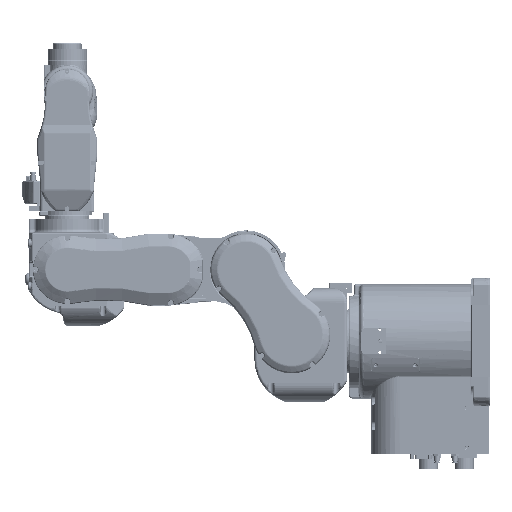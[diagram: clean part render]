
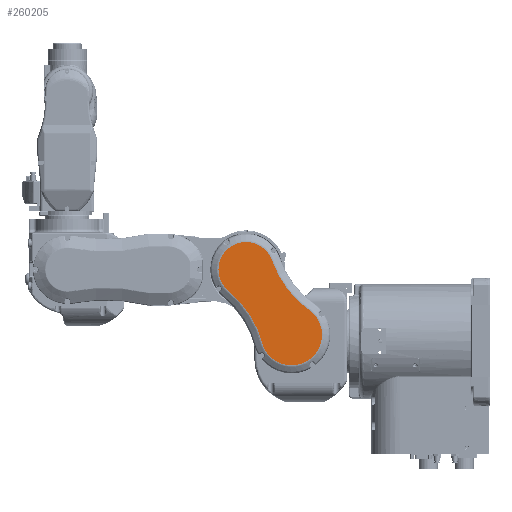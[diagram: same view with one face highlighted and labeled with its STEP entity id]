
A CAD part, top view. The second image highlights one B-rep face of the part: STEP entity #260205.
In plain terms, the highlighted planar face has unit normal (0, 0, 1) as drawn and (0, -0.473, 0.881) by its records, which use the part's own axes.
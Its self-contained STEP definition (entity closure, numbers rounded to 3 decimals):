
#769 = CARTESIAN_POINT ( 'NONE',  ( -115.311, -331.699, -63.086 ) ) ;
#2818 = EDGE_CURVE ( 'NONE', #328233, #56092, #195833, .T. ) ;
#5304 = CARTESIAN_POINT ( 'NONE',  ( -73.285, -386.174, -92.294 ) ) ;
#6852 = ORIENTED_EDGE ( 'NONE', *, *, #2818, .T. ) ;
#11164 = DIRECTION ( 'NONE',  ( 0., -0.473, 0.881 ) ) ;
#14537 = DIRECTION ( 'NONE',  ( -0.827, -0.496, -0.266 ) ) ;
#20610 = DIRECTION ( 'NONE',  ( 0., 0.473, -0.881 ) ) ;
#31771 = ORIENTED_EDGE ( 'NONE', *, *, #140378, .T. ) ;
#34012 = AXIS2_PLACEMENT_3D ( 'NONE', #116949, #11164, #327139 ) ;
#43506 = DIRECTION ( 'NONE',  ( 0., 0.473, -0.881 ) ) ;
#45437 = CARTESIAN_POINT ( 'NONE',  ( -192.506, -373.709, -85.61 ) ) ;
#55650 = DIRECTION ( 'NONE',  ( 0., -0.473, 0.881 ) ) ;
#56092 = VERTEX_POINT ( 'NONE', #117628 ) ;
#68981 = AXIS2_PLACEMENT_3D ( 'NONE', #135149, #325517, #268674 ) ;
#78419 = ORIENTED_EDGE ( 'NONE', *, *, #90865, .T. ) ;
#82316 = DIRECTION ( 'NONE',  ( -0.827, -0.496, -0.266 ) ) ;
#87206 = CIRCLE ( 'NONE', #34012, 38.66 ) ;
#90865 = EDGE_CURVE ( 'NONE', #279669, #110309, #87206, .T. ) ;
#110309 = VERTEX_POINT ( 'NONE', #769 ) ;
#116949 = CARTESIAN_POINT ( 'NONE',  ( -86.115, -354.033, -75.061 ) ) ;
#117628 = CARTESIAN_POINT ( 'NONE',  ( -213.186, -430.175, -115.886 ) ) ;
#121442 = CARTESIAN_POINT ( 'NONE',  ( -29.589, -504.637, -155.81 ) ) ;
#132876 = PLANE ( 'NONE',  #68981 ) ;
#135149 = CARTESIAN_POINT ( 'NONE',  ( -201.073, -330.68, -62.539 ) ) ;
#140378 = EDGE_CURVE ( 'NONE', #338336, #279669, #334622, .T. ) ;
#151814 = FACE_OUTER_BOUND ( 'NONE', #322534, .T. ) ;
#151842 = ORIENTED_EDGE ( 'NONE', *, *, #223331, .T. ) ;
#154476 = CARTESIAN_POINT ( 'NONE',  ( -177.908, -409.036, -104.551 ) ) ;
#158970 = AXIS2_PLACEMENT_3D ( 'NONE', #154476, #287854, #207912 ) ;
#173550 = CARTESIAN_POINT ( 'NONE',  ( -146., -433.991, -117.932 ) ) ;
#195833 = CIRCLE ( 'NONE', #245691, 42.66 ) ;
#202566 = AXIS2_PLACEMENT_3D ( 'NONE', #206486, #20610, #287580 ) ;
#206486 = CARTESIAN_POINT ( 'NONE',  ( -224.239, -252.324, -20.527 ) ) ;
#207912 = DIRECTION ( 'NONE',  ( -0.827, -0.496, -0.266 ) ) ;
#214763 = CARTESIAN_POINT ( 'NONE',  ( -177.908, -409.036, -104.551 ) ) ;
#223331 = EDGE_CURVE ( 'NONE', #56092, #338336, #284739, .T. ) ;
#245691 = AXIS2_PLACEMENT_3D ( 'NONE', #214763, #55650, #82316 ) ;
#260205 = ADVANCED_FACE ( 'NONE', ( #151814 ), #132876, .F. ) ;
#268674 = DIRECTION ( 'NONE',  ( -0.827, -0.496, -0.266 ) ) ;
#279370 = EDGE_CURVE ( 'NONE', #110309, #328233, #305048, .T. ) ;
#279669 = VERTEX_POINT ( 'NONE', #5304 ) ;
#284739 = CIRCLE ( 'NONE', #158970, 42.66 ) ;
#287580 = DIRECTION ( 'NONE',  ( -0.827, -0.496, -0.266 ) ) ;
#287854 = DIRECTION ( 'NONE',  ( 0., -0.473, 0.881 ) ) ;
#301022 = AXIS2_PLACEMENT_3D ( 'NONE', #121442, #43506, #14537 ) ;
#305048 = CIRCLE ( 'NONE', #202566, 141.34 ) ;
#314439 = ORIENTED_EDGE ( 'NONE', *, *, #279370, .T. ) ;
#322534 = EDGE_LOOP ( 'NONE', ( #31771, #78419, #314439, #6852, #151842 ) ) ;
#325517 = DIRECTION ( 'NONE',  ( 0., 0.473, -0.881 ) ) ;
#327139 = DIRECTION ( 'NONE',  ( -0.827, -0.496, -0.266 ) ) ;
#328233 = VERTEX_POINT ( 'NONE', #45437 ) ;
#334622 = CIRCLE ( 'NONE', #301022, 141.34 ) ;
#338336 = VERTEX_POINT ( 'NONE', #173550 ) ;
